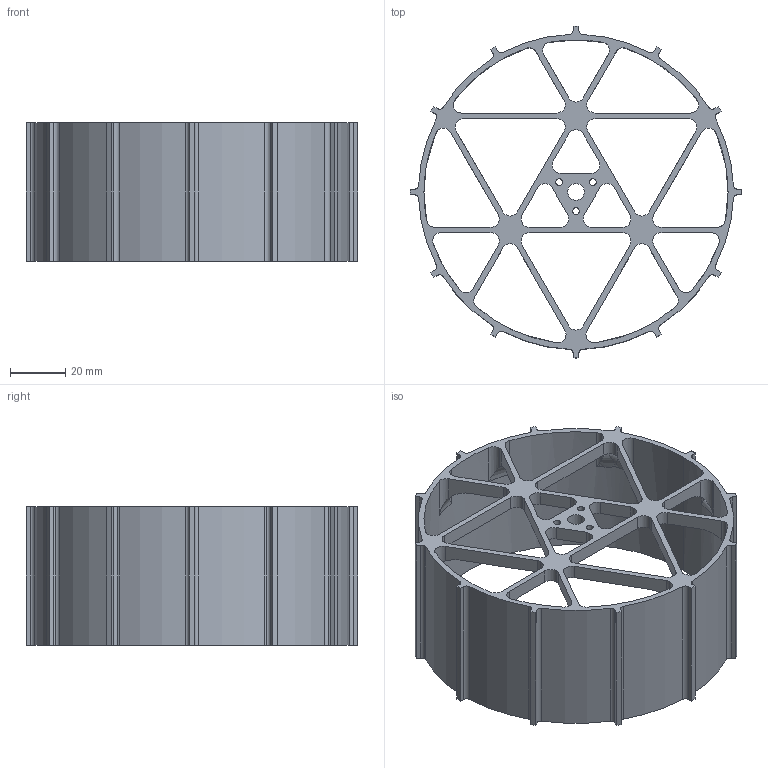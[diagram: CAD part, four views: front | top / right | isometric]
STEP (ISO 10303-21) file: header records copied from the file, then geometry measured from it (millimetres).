
FILE_DESCRIPTION (( 'STEP AP214' ), '1' );
FILE_NAME ('Vähem_hambaid.STEP', '2025-05-19T12:09:05', ( '' ), ( '' ), 'SwSTEP 2.0', 'SolidWorks 2024', '' );
FILE_SCHEMA (( 'AUTOMOTIVE_DESIGN' ));
Length unit declared in the file: millimetre
Products named in the file (1): Vähem_hambaid
Bounding box: 120 x 120 x 50 mm (x, y, z)
Volume: 48289.7 mm3; surface area: 48221.2 mm2
Topology: 1 solids, 1 shells, 212 faces, 651 edges, 427 vertices
Faces by surface type: cylinder 122, plane 63, torus 18, bspline 9
Entity records: 10323 total; most frequent: CARTESIAN_POINT 4349, ORIENTED_EDGE 1296, DIRECTION 1249, EDGE_CURVE 648, AXIS2_PLACEMENT_3D 466, VERTEX_POINT 427, VECTOR 317, LINE 317
